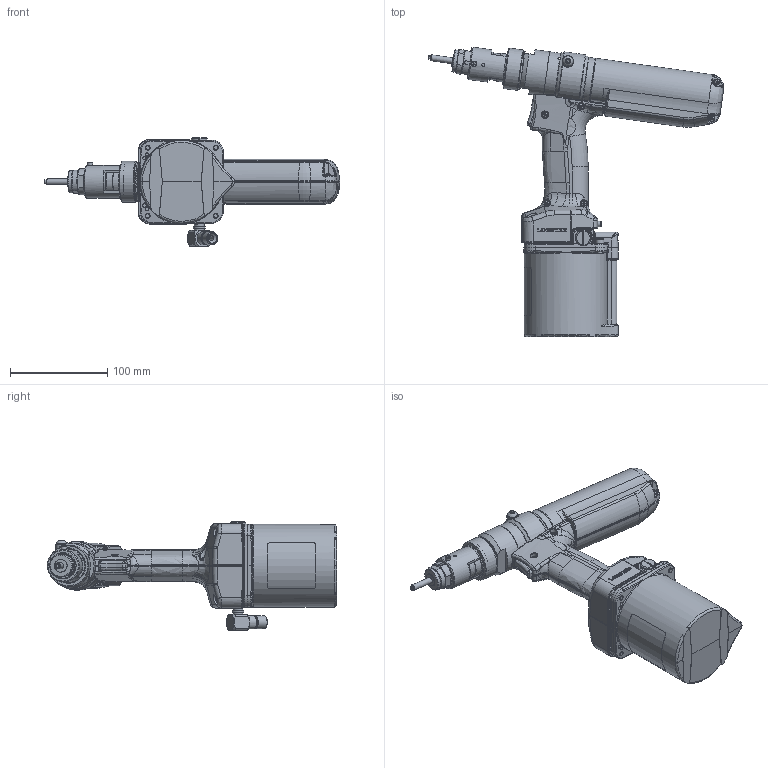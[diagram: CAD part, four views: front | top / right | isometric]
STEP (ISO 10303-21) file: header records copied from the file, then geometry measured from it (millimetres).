
FILE_DESCRIPTION (( 'STEP AP214' ), '1' );
FILE_NAME ('組立図N1A2.STEP', '2017-05-30T06:33:21', ( '' ), ( '' ), 'SwSTEP 2.0', 'SolidWorks 2016', '' );
FILE_SCHEMA (( 'AUTOMOTIVE_DESIGN' ));
Length unit declared in the file: millimetre
Products named in the file (2): 組立図N1A2
Bounding box: 303.75 x 297.6 x 111 mm (x, y, z)
Surface area: 165222.7 mm2 (no closed solid volume)
Topology: 0 solids, 91 shells, 1186 faces, 4070 edges, 2841 vertices
Faces by surface type: plane 378, bspline 376, cylinder 264, cone 93, torus 50, sphere 25
Full cylindrical faces by diameter (mm): 3 x1, 3.3 x1, 3.5 x4, 3.88 x1, 4 x3, 4.1 x1, 4.2 x1, 5 x4, 5.4 x1, 5.5 x1, 5.6 x4, 6 x2, 7 x1, 8 x2, 8.5 x2, 9 x3, 9.5 x1, 10 x4, 10.5 x2, 11 x1, 12 x1, 12.6 x1, 13 x1, 13.1 x1, 13.4 x1, 13.8 x1, 14.2 x1, 16 x1, 16.5 x2, 23 x1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
Entity records: 72491 total; most frequent: CARTESIAN_POINT 29498, ORIENTED_EDGE 6083, DIRECTION 5291, EDGE_CURVE 3850, VERTEX_POINT 2780, AXIS2_PLACEMENT_3D 1934, EDGE_LOOP 1438, VECTOR 1423
